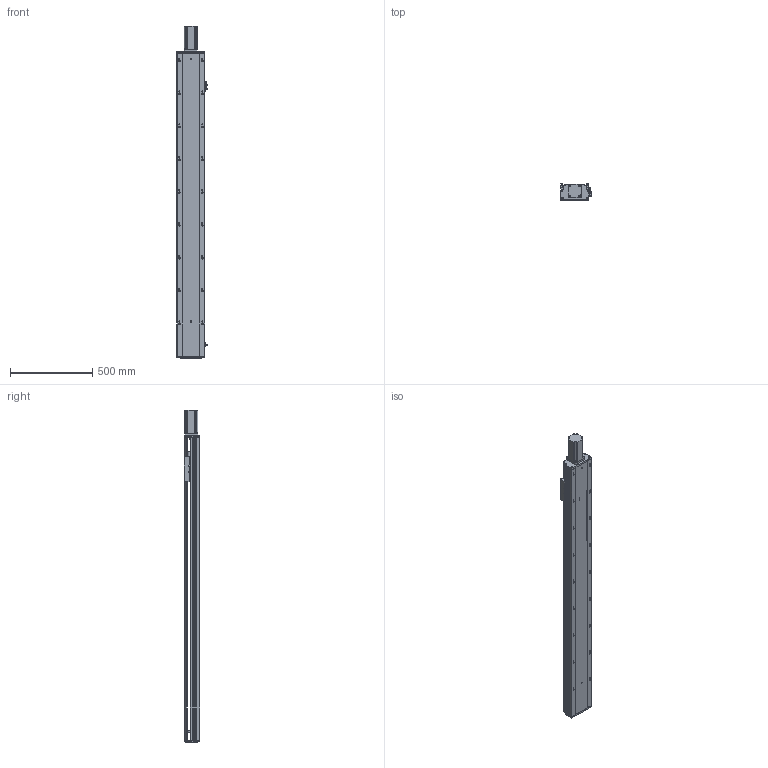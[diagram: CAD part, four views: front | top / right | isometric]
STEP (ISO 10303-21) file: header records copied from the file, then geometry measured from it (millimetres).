
FILE_DESCRIPTION (( 'STEP AP203' ), '1' );
FILE_NAME ('RY170-L2510-1200-MK.SLDASM_1500.step', '2021-02-20T05:12:22', ( '盈信电脑' ), ( '东莞市道滘镇水果街19号' ), 'SwSTEP 2.0', 'SolidWorks 2012', '' );
FILE_SCHEMA (( 'CONFIG_CONTROL_DESIGN' ));
Products named in the file (12): RY170-L2510-1200-MK.SLDASM_1500; 侂狟750W萇儂ㄗ80遺ㄘ; 滅袉蝶18-15; 750W萇儂梓袧蛌諉啣; 覜茼ん672; RY170外置感应片(200共用）; RY170ヶ醱裔啣; 滅袉蝶18-28; RY170臏賑輸25佪裝蹟譫; RY170-1200倰第菁釱-MK_1500; RY170綴裔啣; RY170-1200倰第裔啣-MK_1500
Assembly tree (13 placements, depth 2):
  RY170-L2510-1200-MK.SLDASM_1500
    RY170-1200倰第菁釱-MK_1500
    RY170-1200倰第裔啣-MK_1500
    RY170臏賑輸25佪裝蹟譫
    RY170綴裔啣
    覜茼ん672  x3
    RY170外置感应片(200共用）
    RY170ヶ醱裔啣
    滅袉蝶18-28
    滅袉蝶18-15
    750W萇儂梓袧蛌諉啣
    侂狟750W萇儂ㄗ80遺ㄘ
Bounding box: 183.7 x 97 x 2021 mm (x, y, z)
Volume: 9341495.5 mm3; surface area: 2994840.4 mm2
Topology: 13 solids, 13 shells, 1716 faces, 5047 edges, 3194 vertices
Faces by surface type: cylinder 794, plane 711, cone 207, bspline 4
Entity records: 54778 total; most frequent: CARTESIAN_POINT 12576, ORIENTED_EDGE 8774, DIRECTION 8418, EDGE_CURVE 4387, AXIS2_PLACEMENT_3D 2984, VERTEX_POINT 2874, LINE 2450, VECTOR 2450
